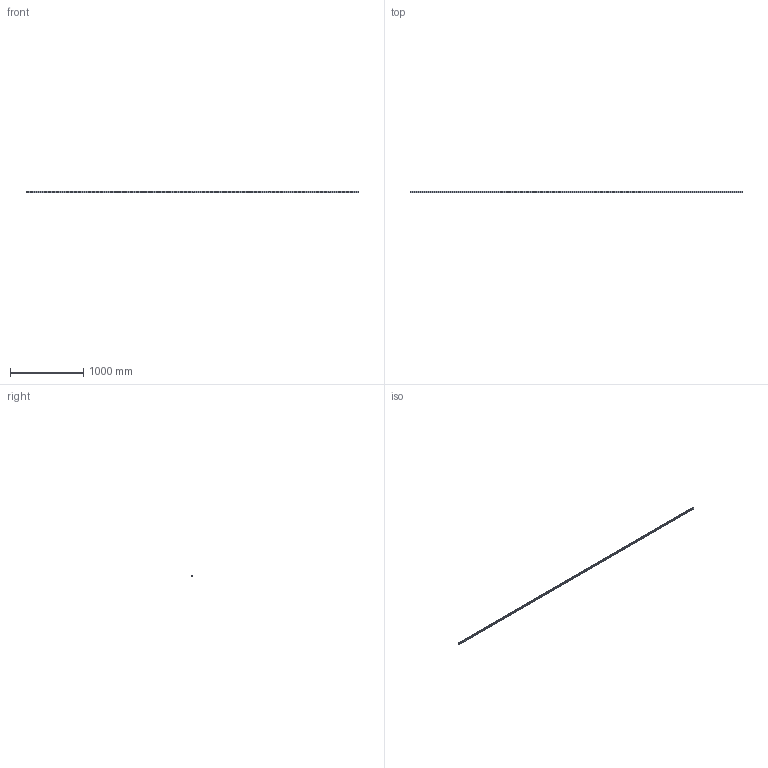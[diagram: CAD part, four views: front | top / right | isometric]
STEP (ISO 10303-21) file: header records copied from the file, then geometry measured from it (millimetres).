
FILE_DESCRIPTION(('CATIA V5 STEP Exchange'),'2;1');
FILE_NAME('C:\Users\14044\Desktop\HSV_3DCAD\HSV20C1SS+4540L\HSV20_RAIL_4540L.stp','2015-11-25T00:41:14+00:00',('none'),('none'),'Version 5-6 Release 2012','CATIA V5 STEP AP203','none');
FILE_SCHEMA(('CONFIG_CONTROL_DESIGN'));
Length unit declared in the file: millimetre
Products named in the file (1): HSV20_RAIL_4540L
Bounding box: 4540 x 18 x 20 mm (x, y, z)
Volume: 1315622.6 mm3; surface area: 382741 mm2
Topology: 1 solids, 1 shells, 406 faces, 984 edges, 887 vertices
Faces by surface type: cylinder 308, plane 98
Entity records: 11026 total; most frequent: CARTESIAN_POINT 2046, ORIENTED_EDGE 1968, DIRECTION 1332, EDGE_CURVE 984, AXIS2_PLACEMENT_3D 791, VERTEX_POINT 656, EDGE_LOOP 634, CIRCLE 616
